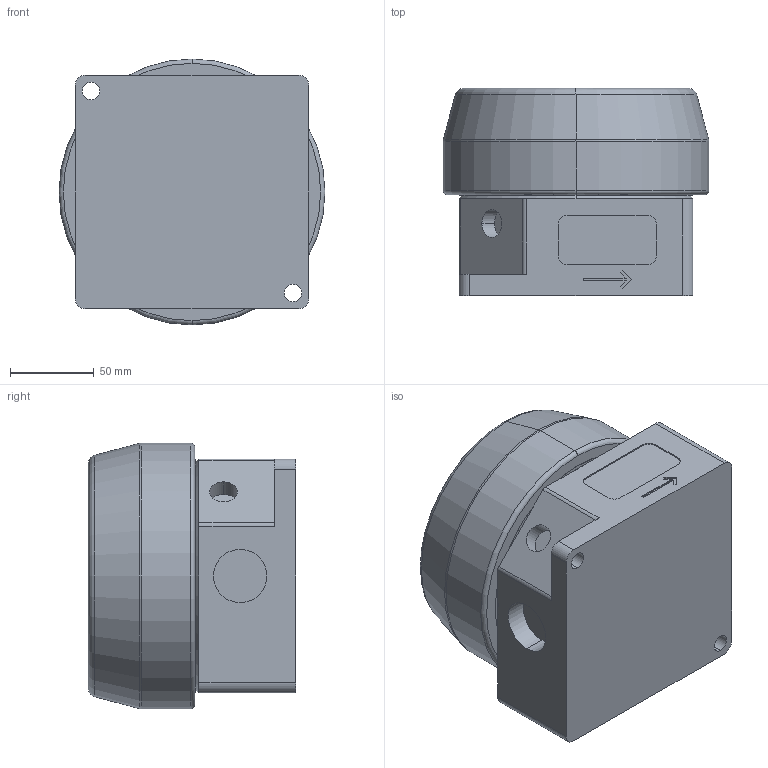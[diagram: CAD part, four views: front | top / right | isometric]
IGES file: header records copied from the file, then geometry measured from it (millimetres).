
Start section: SolidWorks IGES file using analytic representation for surfaces
Global section: file name: S:\Engineer\SW Files\R and D\Andy\RBA12 cad model\RBA 12.IGS; native system: SolidWorks 2020; preprocessor: SolidWorks 2020; author: Andy.Hutchinson; date: 210819.163232; units: inch
Bounding box: 158.75 x 123.83 x 158.75 mm (x, y, z)
Volume: 2260723.4 mm3; surface area: 111216.1 mm2
Topology: 1 solids, 1 shells, 101 faces, 250 edges, 162 vertices
Faces by surface type: plane 55, revolution 46
